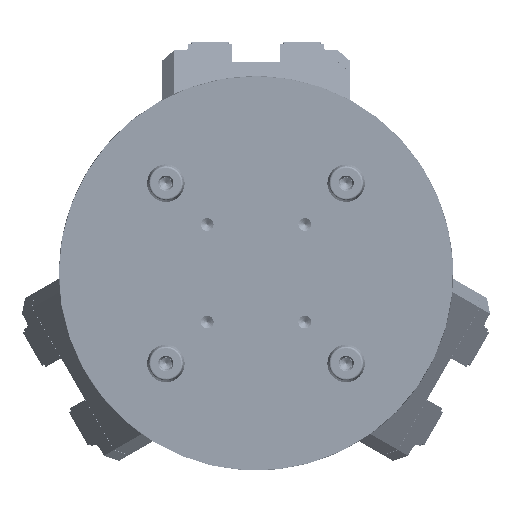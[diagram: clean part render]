
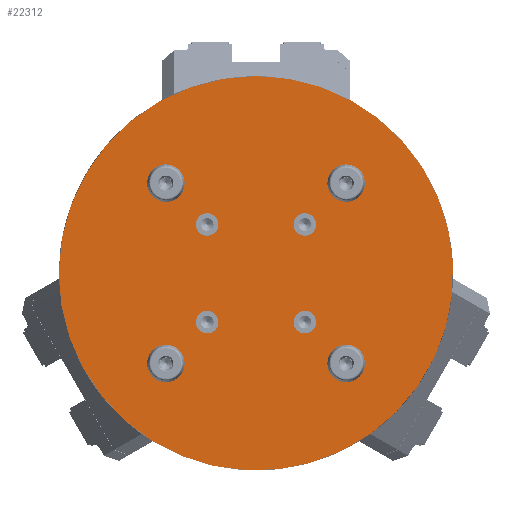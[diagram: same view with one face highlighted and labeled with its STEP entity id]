
A CAD part, front view. The second image highlights one B-rep face of the part: STEP entity #22312.
In plain terms, the highlighted planar face has unit normal (0, -1, 0).
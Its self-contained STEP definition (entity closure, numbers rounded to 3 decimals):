
#138 = ORIENTED_EDGE ( 'NONE', *, *, #29233, .F. ) ;
#282 = CARTESIAN_POINT ( 'NONE',  ( 26., 0., -26. ) ) ;
#309 = CIRCLE ( 'NONE', #2706, 6.008 ) ;
#614 = DIRECTION ( 'NONE',  ( 0., 0., -1. ) ) ;
#707 = EDGE_CURVE ( 'NONE', #9891, #9891, #13622, .T. ) ;
#1152 = ORIENTED_EDGE ( 'NONE', *, *, #3303, .F. ) ;
#1243 = FACE_BOUND ( 'NONE', #20570, .T. ) ;
#1400 = FACE_BOUND ( 'NONE', #9651, .T. ) ;
#1659 = DIRECTION ( 'NONE',  ( 0., -1., 0. ) ) ;
#2146 = ORIENTED_EDGE ( 'NONE', *, *, #13104, .F. ) ;
#2243 = EDGE_CURVE ( 'NONE', #12715, #12715, #22922, .T. ) ;
#2493 = CIRCLE ( 'NONE', #6320, 6.008 ) ;
#2706 = AXIS2_PLACEMENT_3D ( 'NONE', #282, #14006, #11346 ) ;
#2841 = CARTESIAN_POINT ( 'NONE',  ( 0., 0., 0. ) ) ;
#3167 = CARTESIAN_POINT ( 'NONE',  ( -26., 0., 26. ) ) ;
#3303 = EDGE_CURVE ( 'NONE', #28884, #28884, #15402, .T. ) ;
#3349 = FACE_BOUND ( 'NONE', #6837, .T. ) ;
#3593 = DIRECTION ( 'NONE',  ( 0., 0., -1. ) ) ;
#3634 = FACE_BOUND ( 'NONE', #10880, .T. ) ;
#3639 = EDGE_CURVE ( 'NONE', #21977, #21977, #14449, .T. ) ;
#3791 = FACE_BOUND ( 'NONE', #11323, .T. ) ;
#4676 = AXIS2_PLACEMENT_3D ( 'NONE', #16781, #26512, #21996 ) ;
#4761 = EDGE_CURVE ( 'NONE', #18488, #18488, #18664, .T. ) ;
#4823 = VERTEX_POINT ( 'NONE', #13895 ) ;
#5053 = ORIENTED_EDGE ( 'NONE', *, *, #23931, .F. ) ;
#5871 = AXIS2_PLACEMENT_3D ( 'NONE', #18659, #27818, #13458 ) ;
#5967 = VERTEX_POINT ( 'NONE', #24186 ) ;
#6320 = AXIS2_PLACEMENT_3D ( 'NONE', #3167, #21372, #614 ) ;
#6837 = EDGE_LOOP ( 'NONE', ( #1152 ) ) ;
#6957 = EDGE_LOOP ( 'NONE', ( #16597 ) ) ;
#7302 = DIRECTION ( 'NONE',  ( 0., 0., 1. ) ) ;
#7875 = VERTEX_POINT ( 'NONE', #28358 ) ;
#7930 = CARTESIAN_POINT ( 'NONE',  ( -48., 0., -48. ) ) ;
#7975 = EDGE_LOOP ( 'NONE', ( #25684 ) ) ;
#9113 = DIRECTION ( 'NONE',  ( 0., 0., 1. ) ) ;
#9159 = AXIS2_PLACEMENT_3D ( 'NONE', #16129, #16423, #9113 ) ;
#9651 = EDGE_LOOP ( 'NONE', ( #2146 ) ) ;
#9891 = VERTEX_POINT ( 'NONE', #25744 ) ;
#10084 = CARTESIAN_POINT ( 'NONE',  ( -48., 0., 48. ) ) ;
#10345 = FACE_OUTER_BOUND ( 'NONE', #24107, .T. ) ;
#10495 = PLANE ( 'NONE',  #4676 ) ;
#10880 = EDGE_LOOP ( 'NONE', ( #21761 ) ) ;
#11323 = EDGE_LOOP ( 'NONE', ( #11397 ) ) ;
#11346 = DIRECTION ( 'NONE',  ( 0., 0., -1. ) ) ;
#11397 = ORIENTED_EDGE ( 'NONE', *, *, #3639, .F. ) ;
#12715 = VERTEX_POINT ( 'NONE', #15692 ) ;
#13104 = EDGE_CURVE ( 'NONE', #7875, #7875, #309, .T. ) ;
#13458 = DIRECTION ( 'NONE',  ( 0., 0., 1. ) ) ;
#13622 = CIRCLE ( 'NONE', #25576, 105. ) ;
#13770 = AXIS2_PLACEMENT_3D ( 'NONE', #7930, #26036, #26332 ) ;
#13895 = CARTESIAN_POINT ( 'NONE',  ( -48., 0., -39.99 ) ) ;
#14006 = DIRECTION ( 'NONE',  ( 0., -1., 0. ) ) ;
#14367 = AXIS2_PLACEMENT_3D ( 'NONE', #10084, #19166, #17228 ) ;
#14449 = CIRCLE ( 'NONE', #24005, 8.01 ) ;
#14723 = CIRCLE ( 'NONE', #13770, 8.01 ) ;
#15136 = FACE_BOUND ( 'NONE', #21786, .T. ) ;
#15402 = CIRCLE ( 'NONE', #5871, 6.008 ) ;
#15636 = ORIENTED_EDGE ( 'NONE', *, *, #707, .F. ) ;
#15692 = CARTESIAN_POINT ( 'NONE',  ( 48., 0., 56.01 ) ) ;
#16129 = CARTESIAN_POINT ( 'NONE',  ( 26., 0., 26. ) ) ;
#16423 = DIRECTION ( 'NONE',  ( 0., -1., 0. ) ) ;
#16597 = ORIENTED_EDGE ( 'NONE', *, *, #2243, .F. ) ;
#16781 = CARTESIAN_POINT ( 'NONE',  ( 0., 0., 0. ) ) ;
#17103 = DIRECTION ( 'NONE',  ( 0., 0., 1. ) ) ;
#17172 = CARTESIAN_POINT ( 'NONE',  ( 48., 0., -48. ) ) ;
#17228 = DIRECTION ( 'NONE',  ( 0., 0., -1. ) ) ;
#17241 = CARTESIAN_POINT ( 'NONE',  ( 48., 0., 48. ) ) ;
#17356 = FACE_BOUND ( 'NONE', #6957, .T. ) ;
#17715 = CIRCLE ( 'NONE', #14367, 8.01 ) ;
#18461 = VERTEX_POINT ( 'NONE', #27636 ) ;
#18488 = VERTEX_POINT ( 'NONE', #27220 ) ;
#18659 = CARTESIAN_POINT ( 'NONE',  ( -26., 0., -26. ) ) ;
#18664 = CIRCLE ( 'NONE', #9159, 6.008 ) ;
#19032 = DIRECTION ( 'NONE',  ( 0., -1., 0. ) ) ;
#19166 = DIRECTION ( 'NONE',  ( 0., -1., 0. ) ) ;
#20570 = EDGE_LOOP ( 'NONE', ( #5053 ) ) ;
#21372 = DIRECTION ( 'NONE',  ( 0., -1., 0. ) ) ;
#21543 = FACE_BOUND ( 'NONE', #7975, .T. ) ;
#21761 = ORIENTED_EDGE ( 'NONE', *, *, #4761, .F. ) ;
#21786 = EDGE_LOOP ( 'NONE', ( #138 ) ) ;
#21977 = VERTEX_POINT ( 'NONE', #27066 ) ;
#21996 = DIRECTION ( 'NONE',  ( 0., 0., 1. ) ) ;
#22312 = ADVANCED_FACE ( 'NONE', ( #3349, #1400, #3634, #21543, #1243, #3791, #17356, #15136, #10345 ), #10495, .F. ) ;
#22922 = CIRCLE ( 'NONE', #24363, 8.01 ) ;
#23931 = EDGE_CURVE ( 'NONE', #4823, #4823, #14723, .T. ) ;
#24005 = AXIS2_PLACEMENT_3D ( 'NONE', #17172, #1659, #3593 ) ;
#24107 = EDGE_LOOP ( 'NONE', ( #15636 ) ) ;
#24186 = CARTESIAN_POINT ( 'NONE',  ( -26., 0., 19.992 ) ) ;
#24363 = AXIS2_PLACEMENT_3D ( 'NONE', #17241, #19032, #17103 ) ;
#25576 = AXIS2_PLACEMENT_3D ( 'NONE', #2841, #25848, #7302 ) ;
#25684 = ORIENTED_EDGE ( 'NONE', *, *, #28527, .F. ) ;
#25744 = CARTESIAN_POINT ( 'NONE',  ( 0., 0., 105. ) ) ;
#25848 = DIRECTION ( 'NONE',  ( 0., 1., 0. ) ) ;
#26036 = DIRECTION ( 'NONE',  ( 0., -1., 0. ) ) ;
#26332 = DIRECTION ( 'NONE',  ( 0., 0., 1. ) ) ;
#26512 = DIRECTION ( 'NONE',  ( 0., 1., 0. ) ) ;
#26921 = CARTESIAN_POINT ( 'NONE',  ( -26., 0., -19.992 ) ) ;
#27066 = CARTESIAN_POINT ( 'NONE',  ( 48., 0., -56.01 ) ) ;
#27220 = CARTESIAN_POINT ( 'NONE',  ( 26., 0., 32.008 ) ) ;
#27636 = CARTESIAN_POINT ( 'NONE',  ( -48., 0., 39.99 ) ) ;
#27818 = DIRECTION ( 'NONE',  ( 0., -1., 0. ) ) ;
#28358 = CARTESIAN_POINT ( 'NONE',  ( 26., 0., -32.008 ) ) ;
#28527 = EDGE_CURVE ( 'NONE', #5967, #5967, #2493, .T. ) ;
#28884 = VERTEX_POINT ( 'NONE', #26921 ) ;
#29233 = EDGE_CURVE ( 'NONE', #18461, #18461, #17715, .T. ) ;
